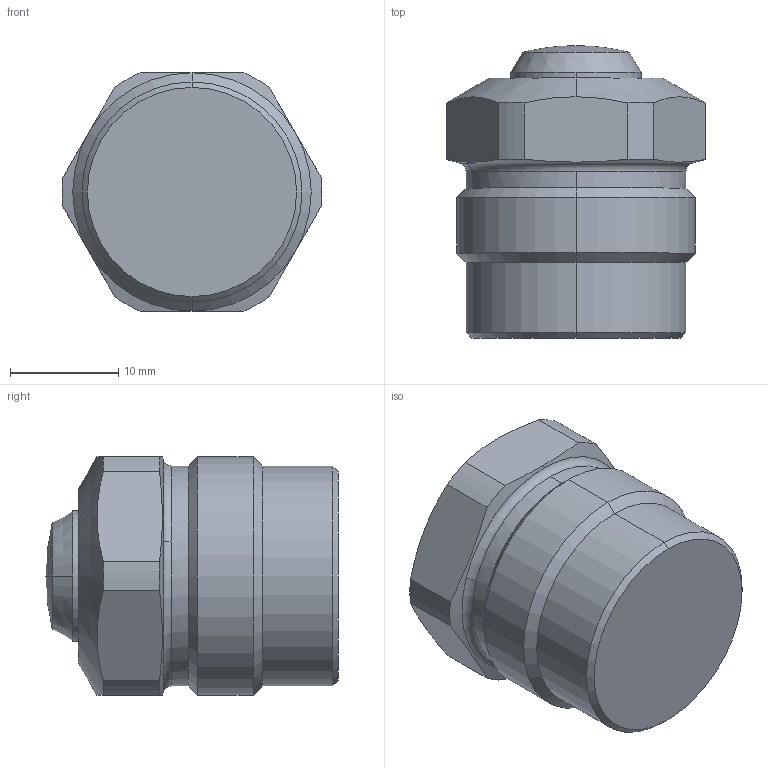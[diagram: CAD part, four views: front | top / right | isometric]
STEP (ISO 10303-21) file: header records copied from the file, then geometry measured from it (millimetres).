
FILE_DESCRIPTION((' '),'2;1');
FILE_NAME( 'CMC03-05R.X_T.stp', '2024-08-27T13:58:37', (' '), ('--- Datakit www.datakit.com---'), ' Datakit CrossCadWare V2024.1 Dec 21 2023', 'Mastercam 2025', ' ');
FILE_SCHEMA(('AUTOMOTIVE_DESIGN { 1 0 10303 214 1 1 1 1 }'));
Length unit declared in the file: millimetre
Products named in the file (1): CMC03-05R
Bounding box: 23.98 x 27 x 22 mm (x, y, z)
Volume: 8833.1 mm3; surface area: 3008.2 mm2
Topology: 2 solids, 2 shells, 42 faces, 102 edges, 63 vertices
Faces by surface type: cylinder 16, cone 12, plane 10, torus 2, sphere 2
Entity records: 1308 total; most frequent: CARTESIAN_POINT 298, DIRECTION 220, ORIENTED_EDGE 200, EDGE_CURVE 100, AXIS2_PLACEMENT_3D 93, VERTEX_POINT 63, CIRCLE 50, EDGE_LOOP 43
